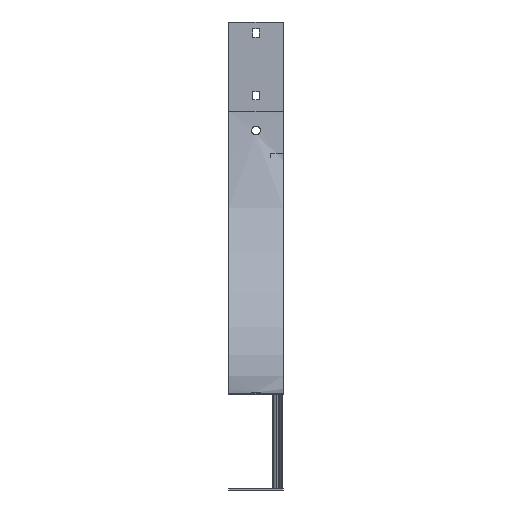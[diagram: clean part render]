
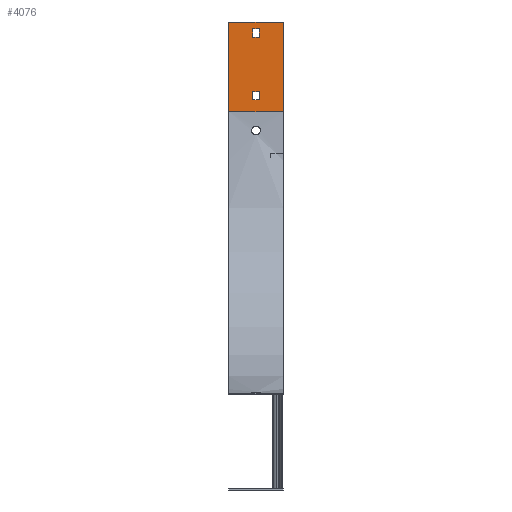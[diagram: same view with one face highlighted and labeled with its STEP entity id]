
A CAD part, left-side view. The second image highlights one B-rep face of the part: STEP entity #4076.
In plain terms, the highlighted planar face has unit normal (-1, 0, 0) as drawn and (1, 0, 0) by its records, which use the part's own axes.
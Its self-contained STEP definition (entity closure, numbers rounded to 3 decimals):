
#38 = VERTEX_POINT ( 'NONE', #2651 ) ;
#50 = CARTESIAN_POINT ( 'NONE',  ( -448., 49., -131.5 ) ) ;
#81 = LINE ( 'NONE', #50, #902 ) ;
#105 = LINE ( 'NONE', #4881, #2386 ) ;
#130 = DIRECTION ( 'NONE',  ( 0., 0., -1. ) ) ;
#136 = DIRECTION ( 'NONE',  ( 0., 1., 0. ) ) ;
#171 = ORIENTED_EDGE ( 'NONE', *, *, #5064, .F. ) ;
#251 = ORIENTED_EDGE ( 'NONE', *, *, #4971, .F. ) ;
#297 = DIRECTION ( 'NONE',  ( 0., 0., -1. ) ) ;
#305 = EDGE_CURVE ( 'NONE', #4418, #2351, #2068, .T. ) ;
#323 = VECTOR ( 'NONE', #130, 1000. ) ;
#649 = EDGE_CURVE ( 'NONE', #3300, #1424, #853, .T. ) ;
#771 = EDGE_CURVE ( 'NONE', #2645, #3712, #105, .T. ) ;
#776 = VECTOR ( 'NONE', #1261, 1000. ) ;
#850 = LINE ( 'NONE', #2479, #4128 ) ;
#853 = LINE ( 'NONE', #1279, #3143 ) ;
#902 = VECTOR ( 'NONE', #4953, 1000. ) ;
#908 = CARTESIAN_POINT ( 'NONE',  ( -448., 49., -118.5 ) ) ;
#923 = EDGE_LOOP ( 'NONE', ( #251, #4892, #1236, #1289 ) ) ;
#1055 = ORIENTED_EDGE ( 'NONE', *, *, #3368, .F. ) ;
#1095 = ORIENTED_EDGE ( 'NONE', *, *, #649, .F. ) ;
#1172 = LINE ( 'NONE', #4794, #2425 ) ;
#1180 = CARTESIAN_POINT ( 'NONE',  ( -448., 49., -31.5 ) ) ;
#1230 = DIRECTION ( 'NONE',  ( 0., -1., 0. ) ) ;
#1236 = ORIENTED_EDGE ( 'NONE', *, *, #2110, .F. ) ;
#1242 = CARTESIAN_POINT ( 'NONE',  ( -448., 87., -142.5 ) ) ;
#1261 = DIRECTION ( 'NONE',  ( 0., -1., 0. ) ) ;
#1279 = CARTESIAN_POINT ( 'NONE',  ( -448., 49., -118.5 ) ) ;
#1289 = ORIENTED_EDGE ( 'NONE', *, *, #2818, .F. ) ;
#1311 = CARTESIAN_POINT ( 'NONE',  ( -448., 87., 0. ) ) ;
#1398 = FACE_BOUND ( 'NONE', #923, .T. ) ;
#1424 = VERTEX_POINT ( 'NONE', #3852 ) ;
#1470 = DIRECTION ( 'NONE',  ( 1., 0., 0. ) ) ;
#1546 = VERTEX_POINT ( 'NONE', #2256 ) ;
#1595 = DIRECTION ( 'NONE',  ( 0., -1., 0. ) ) ;
#1621 = CARTESIAN_POINT ( 'NONE',  ( -448., 49., -18.5 ) ) ;
#1697 = ORIENTED_EDGE ( 'NONE', *, *, #2076, .F. ) ;
#1956 = DIRECTION ( 'NONE',  ( 0., 0., 1. ) ) ;
#2010 = CARTESIAN_POINT ( 'NONE',  ( -448., 49., -118.5 ) ) ;
#2068 = LINE ( 'NONE', #1311, #776 ) ;
#2076 = EDGE_CURVE ( 'NONE', #1424, #3295, #4110, .T. ) ;
#2110 = EDGE_CURVE ( 'NONE', #1546, #4227, #2120, .T. ) ;
#2120 = LINE ( 'NONE', #4572, #4719 ) ;
#2256 = CARTESIAN_POINT ( 'NONE',  ( -448., 38., -31.5 ) ) ;
#2351 = VERTEX_POINT ( 'NONE', #5165 ) ;
#2386 = VECTOR ( 'NONE', #1230, 1000. ) ;
#2425 = VECTOR ( 'NONE', #2773, 1000. ) ;
#2454 = CARTESIAN_POINT ( 'NONE',  ( -448., 38., -18.5 ) ) ;
#2479 = CARTESIAN_POINT ( 'NONE',  ( -448., 49., -18.5 ) ) ;
#2511 = AXIS2_PLACEMENT_3D ( 'NONE', #5071, #1470, #297 ) ;
#2518 = DIRECTION ( 'NONE',  ( 0., 0., -1. ) ) ;
#2519 = DIRECTION ( 'NONE',  ( 0., 0., 1. ) ) ;
#2540 = LINE ( 'NONE', #2914, #4561 ) ;
#2598 = EDGE_CURVE ( 'NONE', #3712, #2351, #2540, .T. ) ;
#2645 = VERTEX_POINT ( 'NONE', #1242 ) ;
#2651 = CARTESIAN_POINT ( 'NONE',  ( -448., 38., -18.5 ) ) ;
#2773 = DIRECTION ( 'NONE',  ( 0., -1., 0. ) ) ;
#2818 = EDGE_CURVE ( 'NONE', #38, #1546, #2877, .T. ) ;
#2832 = EDGE_LOOP ( 'NONE', ( #4243, #3721, #3619, #4846 ) ) ;
#2877 = LINE ( 'NONE', #2454, #323 ) ;
#2914 = CARTESIAN_POINT ( 'NONE',  ( -448., 0., 0. ) ) ;
#2922 = LINE ( 'NONE', #908, #4816 ) ;
#2989 = CARTESIAN_POINT ( 'NONE',  ( -448., 87., 0. ) ) ;
#3005 = CARTESIAN_POINT ( 'NONE',  ( -448., 49., -131.5 ) ) ;
#3143 = VECTOR ( 'NONE', #1595, 1000. ) ;
#3295 = VERTEX_POINT ( 'NONE', #4459 ) ;
#3300 = VERTEX_POINT ( 'NONE', #2010 ) ;
#3330 = VERTEX_POINT ( 'NONE', #1621 ) ;
#3368 = EDGE_CURVE ( 'NONE', #3295, #3577, #81, .T. ) ;
#3520 = VECTOR ( 'NONE', #2518, 1000. ) ;
#3544 = PLANE ( 'NONE',  #2511 ) ;
#3573 = CARTESIAN_POINT ( 'NONE',  ( -448., 87., 0. ) ) ;
#3577 = VERTEX_POINT ( 'NONE', #3005 ) ;
#3619 = ORIENTED_EDGE ( 'NONE', *, *, #4092, .T. ) ;
#3712 = VERTEX_POINT ( 'NONE', #4743 ) ;
#3721 = ORIENTED_EDGE ( 'NONE', *, *, #771, .F. ) ;
#3754 = DIRECTION ( 'NONE',  ( 0., 0., 1. ) ) ;
#3852 = CARTESIAN_POINT ( 'NONE',  ( -448., 38., -118.5 ) ) ;
#3983 = LINE ( 'NONE', #3573, #4210 ) ;
#4076 = ADVANCED_FACE ( 'NONE', ( #5117, #1398, #4330 ), #3544, .T. ) ;
#4092 = EDGE_CURVE ( 'NONE', #2645, #4418, #3983, .T. ) ;
#4110 = LINE ( 'NONE', #4192, #3520 ) ;
#4128 = VECTOR ( 'NONE', #3754, 1000. ) ;
#4150 = DIRECTION ( 'NONE',  ( 0., 0., 1. ) ) ;
#4192 = CARTESIAN_POINT ( 'NONE',  ( -448., 38., -118.5 ) ) ;
#4210 = VECTOR ( 'NONE', #1956, 1000. ) ;
#4227 = VERTEX_POINT ( 'NONE', #1180 ) ;
#4243 = ORIENTED_EDGE ( 'NONE', *, *, #2598, .F. ) ;
#4330 = FACE_OUTER_BOUND ( 'NONE', #2832, .T. ) ;
#4418 = VERTEX_POINT ( 'NONE', #2989 ) ;
#4459 = CARTESIAN_POINT ( 'NONE',  ( -448., 38., -131.5 ) ) ;
#4561 = VECTOR ( 'NONE', #2519, 1000. ) ;
#4572 = CARTESIAN_POINT ( 'NONE',  ( -448., 49., -31.5 ) ) ;
#4699 = EDGE_CURVE ( 'NONE', #4227, #3330, #850, .T. ) ;
#4719 = VECTOR ( 'NONE', #136, 1000. ) ;
#4743 = CARTESIAN_POINT ( 'NONE',  ( -448., 0., -142.5 ) ) ;
#4794 = CARTESIAN_POINT ( 'NONE',  ( -448., 49., -18.5 ) ) ;
#4816 = VECTOR ( 'NONE', #4150, 1000. ) ;
#4840 = EDGE_LOOP ( 'NONE', ( #1095, #171, #1055, #1697 ) ) ;
#4846 = ORIENTED_EDGE ( 'NONE', *, *, #305, .T. ) ;
#4881 = CARTESIAN_POINT ( 'NONE',  ( -448., 87., -142.5 ) ) ;
#4892 = ORIENTED_EDGE ( 'NONE', *, *, #4699, .F. ) ;
#4953 = DIRECTION ( 'NONE',  ( 0., 1., 0. ) ) ;
#4971 = EDGE_CURVE ( 'NONE', #3330, #38, #1172, .T. ) ;
#5064 = EDGE_CURVE ( 'NONE', #3577, #3300, #2922, .T. ) ;
#5071 = CARTESIAN_POINT ( 'NONE',  ( -448., 87., 0. ) ) ;
#5117 = FACE_BOUND ( 'NONE', #4840, .T. ) ;
#5165 = CARTESIAN_POINT ( 'NONE',  ( -448., 0., 0. ) ) ;
